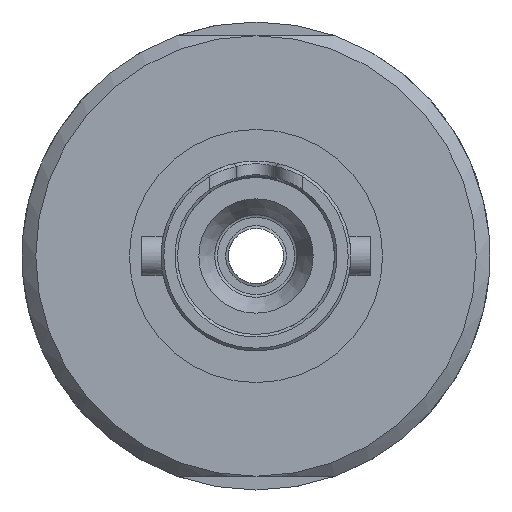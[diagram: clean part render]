
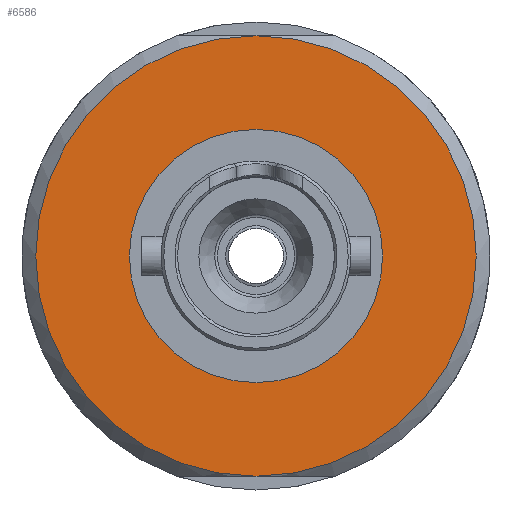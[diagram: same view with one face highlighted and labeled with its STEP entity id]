
A CAD part, left-side view. The second image highlights one B-rep face of the part: STEP entity #6586.
In plain terms, the highlighted planar face has unit normal (-1, 0, 0).
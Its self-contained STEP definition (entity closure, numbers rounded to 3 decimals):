
#196 = ORIENTED_EDGE ( 'NONE', *, *, #9831, .T. ) ;
#474 = FACE_OUTER_BOUND ( 'NONE', #4664, .T. ) ;
#1259 = VERTEX_POINT ( 'NONE', #9304 ) ;
#1511 = DIRECTION ( 'NONE',  ( 1., 0., 0. ) ) ;
#1574 = DIRECTION ( 'NONE',  ( 0., -1., 0. ) ) ;
#1600 = CARTESIAN_POINT ( 'NONE',  ( -27.7, 0., 0. ) ) ;
#1619 = DIRECTION ( 'NONE',  ( 0., -1., 0. ) ) ;
#1631 = DIRECTION ( 'NONE',  ( -1., 0., 0. ) ) ;
#2080 = CARTESIAN_POINT ( 'NONE',  ( -27.7, 0., 0. ) ) ;
#2115 = EDGE_CURVE ( 'NONE', #9060, #5536, #5584, .T. ) ;
#2466 = EDGE_CURVE ( 'NONE', #1259, #1259, #7785, .T. ) ;
#2473 = DIRECTION ( 'NONE',  ( 0., -1., 0. ) ) ;
#2935 = ORIENTED_EDGE ( 'NONE', *, *, #2466, .T. ) ;
#3565 = AXIS2_PLACEMENT_3D ( 'NONE', #11072, #1511, #1619 ) ;
#4020 = FACE_BOUND ( 'NONE', #6786, .T. ) ;
#4284 = AXIS2_PLACEMENT_3D ( 'NONE', #1600, #11224, #2473 ) ;
#4664 = EDGE_LOOP ( 'NONE', ( #196, #9494 ) ) ;
#4868 = AXIS2_PLACEMENT_3D ( 'NONE', #5874, #1631, #1574 ) ;
#5043 = DIRECTION ( 'NONE',  ( 0., -1., 0. ) ) ;
#5536 = VERTEX_POINT ( 'NONE', #9059 ) ;
#5584 = CIRCLE ( 'NONE', #10207, 8. ) ;
#5874 = CARTESIAN_POINT ( 'NONE',  ( -27.7, 0., 0. ) ) ;
#6586 = ADVANCED_FACE ( 'NONE', ( #474, #4020 ), #7537, .F. ) ;
#6786 = EDGE_LOOP ( 'NONE', ( #2935 ) ) ;
#7537 = PLANE ( 'NONE',  #3565 ) ;
#7785 = CIRCLE ( 'NONE', #4284, 4.6 ) ;
#9059 = CARTESIAN_POINT ( 'NONE',  ( -27.7, 0., -8. ) ) ;
#9060 = VERTEX_POINT ( 'NONE', #9270 ) ;
#9160 = DIRECTION ( 'NONE',  ( -1., 0., 0. ) ) ;
#9270 = CARTESIAN_POINT ( 'NONE',  ( -27.7, 0., 8. ) ) ;
#9304 = CARTESIAN_POINT ( 'NONE',  ( -27.7, -4.6, 0. ) ) ;
#9494 = ORIENTED_EDGE ( 'NONE', *, *, #2115, .T. ) ;
#9831 = EDGE_CURVE ( 'NONE', #5536, #9060, #10777, .T. ) ;
#10207 = AXIS2_PLACEMENT_3D ( 'NONE', #2080, #9160, #5043 ) ;
#10777 = CIRCLE ( 'NONE', #4868, 8. ) ;
#11072 = CARTESIAN_POINT ( 'NONE',  ( -27.7, 0., 0. ) ) ;
#11224 = DIRECTION ( 'NONE',  ( 1., 0., 0. ) ) ;
